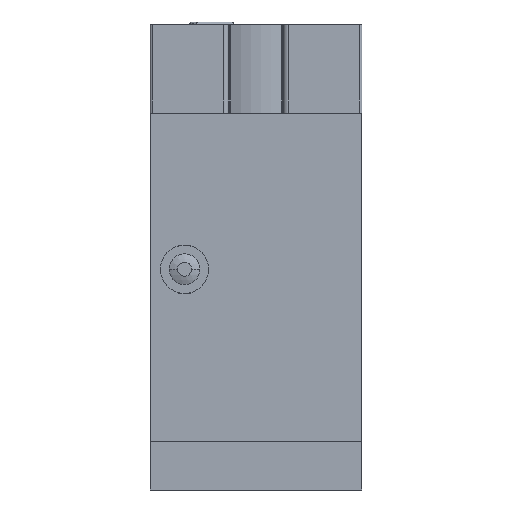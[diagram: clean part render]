
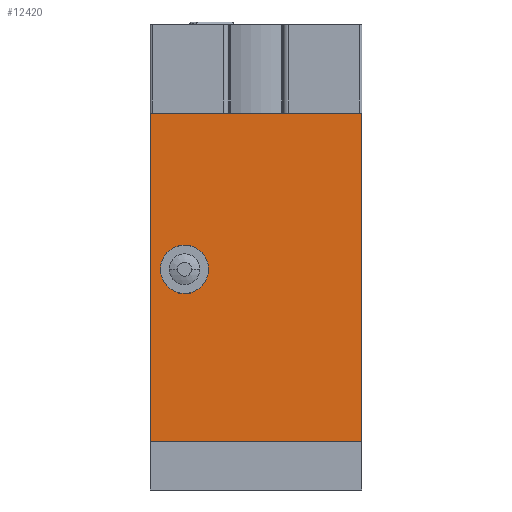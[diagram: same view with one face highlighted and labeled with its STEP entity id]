
A CAD part, left-side view. The second image highlights one B-rep face of the part: STEP entity #12420.
In plain terms, the highlighted planar face has unit normal (-1, 0, 0).
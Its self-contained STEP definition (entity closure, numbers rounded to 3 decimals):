
#441 = CARTESIAN_POINT ( 'NONE',  ( -30., -40., 71.2 ) ) ;
#649 = EDGE_LOOP ( 'NONE', ( #5609, #4303, #1669, #14090 ) ) ;
#1154 = EDGE_CURVE ( 'NONE', #9723, #7356, #3508, .T. ) ;
#1502 = DIRECTION ( 'NONE',  ( 0., -1., 0. ) ) ;
#1669 = ORIENTED_EDGE ( 'NONE', *, *, #10946, .F. ) ;
#2243 = DIRECTION ( 'NONE',  ( 0., 0., -1. ) ) ;
#2443 = LINE ( 'NONE', #2624, #13600 ) ;
#2624 = CARTESIAN_POINT ( 'NONE',  ( -30., -40., 71.2 ) ) ;
#2632 = EDGE_CURVE ( 'NONE', #6085, #11557, #2443, .T. ) ;
#3425 = DIRECTION ( 'NONE',  ( 0., 0., -1. ) ) ;
#3508 = LINE ( 'NONE', #3637, #6952 ) ;
#3637 = CARTESIAN_POINT ( 'NONE',  ( -30., -40., 9.2 ) ) ;
#3818 = CARTESIAN_POINT ( 'NONE',  ( -30., 0., 9.2 ) ) ;
#4011 = VECTOR ( 'NONE', #3425, 1000. ) ;
#4303 = ORIENTED_EDGE ( 'NONE', *, *, #1154, .T. ) ;
#4519 = CARTESIAN_POINT ( 'NONE',  ( -30., 0., 71.2 ) ) ;
#5016 = LINE ( 'NONE', #12541, #7883 ) ;
#5276 = LINE ( 'NONE', #11643, #4011 ) ;
#5609 = ORIENTED_EDGE ( 'NONE', *, *, #13731, .T. ) ;
#5753 = CARTESIAN_POINT ( 'NONE',  ( -30., -40., 9.2 ) ) ;
#5954 = DIRECTION ( 'NONE',  ( 0., -1., 0. ) ) ;
#6085 = VERTEX_POINT ( 'NONE', #4519 ) ;
#6190 = PLANE ( 'NONE',  #11874 ) ;
#6952 = VECTOR ( 'NONE', #5954, 1000. ) ;
#7356 = VERTEX_POINT ( 'NONE', #5753 ) ;
#7883 = VECTOR ( 'NONE', #2243, 1000. ) ;
#8607 = DIRECTION ( 'NONE',  ( 0., 0., -1. ) ) ;
#9723 = VERTEX_POINT ( 'NONE', #3818 ) ;
#10696 = CARTESIAN_POINT ( 'NONE',  ( -30., -40., 71.2 ) ) ;
#10946 = EDGE_CURVE ( 'NONE', #11557, #7356, #5276, .T. ) ;
#11557 = VERTEX_POINT ( 'NONE', #10696 ) ;
#11643 = CARTESIAN_POINT ( 'NONE',  ( -30., -40., 71.2 ) ) ;
#11874 = AXIS2_PLACEMENT_3D ( 'NONE', #441, #13233, #8607 ) ;
#12420 = ADVANCED_FACE ( 'NONE', ( #13625 ), #6190, .F. ) ;
#12541 = CARTESIAN_POINT ( 'NONE',  ( -30., 0., 71.2 ) ) ;
#13233 = DIRECTION ( 'NONE',  ( 1., 0., 0. ) ) ;
#13600 = VECTOR ( 'NONE', #1502, 1000. ) ;
#13625 = FACE_OUTER_BOUND ( 'NONE', #649, .T. ) ;
#13731 = EDGE_CURVE ( 'NONE', #6085, #9723, #5016, .T. ) ;
#14090 = ORIENTED_EDGE ( 'NONE', *, *, #2632, .F. ) ;
